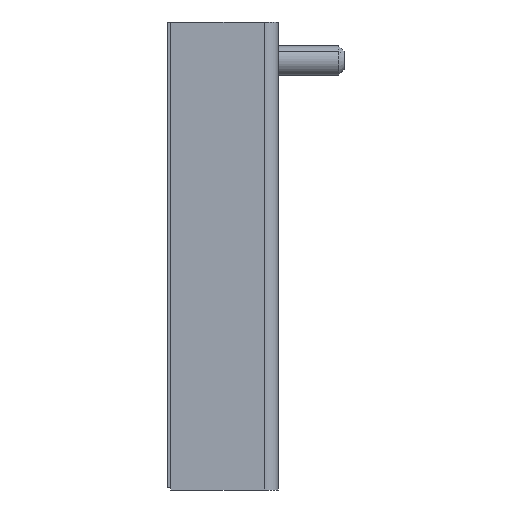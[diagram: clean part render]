
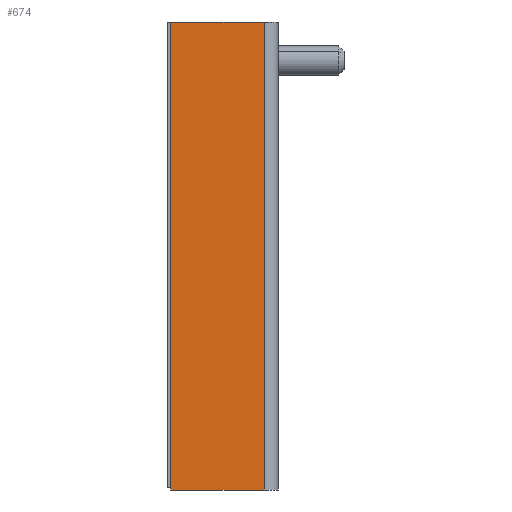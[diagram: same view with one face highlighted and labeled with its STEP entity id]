
A CAD part, left-side view. The second image highlights one B-rep face of the part: STEP entity #674.
In plain terms, the highlighted planar face has unit normal (-1, 0, 0).
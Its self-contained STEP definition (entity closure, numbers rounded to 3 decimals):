
#470 = EDGE_CURVE ( 'NONE', #677, #663, #1276, .T. ) ;
#473 = EDGE_CURVE ( 'NONE', #668, #677, #1245, .T. ) ;
#643 = ORIENTED_EDGE ( 'NONE', *, *, #684, .T. ) ;
#650 = EDGE_CURVE ( 'NONE', #655, #668, #1483, .T. ) ;
#655 = VERTEX_POINT ( 'NONE', #1487 ) ;
#663 = VERTEX_POINT ( 'NONE', #1585 ) ;
#668 = VERTEX_POINT ( 'NONE', #1592 ) ;
#674 = ADVANCED_FACE ( 'NONE', ( #1576 ), #1587, .T. ) ;
#675 = ORIENTED_EDGE ( 'NONE', *, *, #473, .T. ) ;
#677 = VERTEX_POINT ( 'NONE', #1565 ) ;
#679 = ORIENTED_EDGE ( 'NONE', *, *, #650, .T. ) ;
#682 = ORIENTED_EDGE ( 'NONE', *, *, #470, .T. ) ;
#684 = EDGE_CURVE ( 'NONE', #663, #655, #1579, .T. ) ;
#687 = EDGE_LOOP ( 'NONE', ( #643, #679, #675, #682 ) ) ;
#1242 = DIRECTION ( 'NONE',  ( 0., -1., 0. ) ) ;
#1243 = VECTOR ( 'NONE', #1242, 1000. ) ;
#1244 = CARTESIAN_POINT ( 'NONE',  ( -2., 0., 0. ) ) ;
#1245 = LINE ( 'NONE', #1244, #1243 ) ;
#1273 = DIRECTION ( 'NONE',  ( 0., 0., 1. ) ) ;
#1274 = VECTOR ( 'NONE', #1273, 1000. ) ;
#1275 = CARTESIAN_POINT ( 'NONE',  ( -2., 0.5, 85. ) ) ;
#1276 = LINE ( 'NONE', #1275, #1274 ) ;
#1483 = LINE ( 'NONE', #1486, #1589 ) ;
#1485 = DIRECTION ( 'NONE',  ( 0., 0., -1. ) ) ;
#1486 = CARTESIAN_POINT ( 'NONE',  ( -2., 17.5, 85. ) ) ;
#1487 = CARTESIAN_POINT ( 'NONE',  ( -2., 17.5, 85. ) ) ;
#1565 = CARTESIAN_POINT ( 'NONE',  ( -2., 0.5, 0. ) ) ;
#1569 = DIRECTION ( 'NONE',  ( 0., 1., 0. ) ) ;
#1570 = DIRECTION ( 'NONE',  ( 0., 0., 1. ) ) ;
#1571 = DIRECTION ( 'NONE',  ( -1., 0., 0. ) ) ;
#1573 = CARTESIAN_POINT ( 'NONE',  ( -2., 0., 85. ) ) ;
#1576 = FACE_OUTER_BOUND ( 'NONE', #687, .T. ) ;
#1579 = LINE ( 'NONE', #1619, #1616 ) ;
#1580 = AXIS2_PLACEMENT_3D ( 'NONE', #1573, #1571, #1570 ) ;
#1585 = CARTESIAN_POINT ( 'NONE',  ( -2., 0.5, 85. ) ) ;
#1587 = PLANE ( 'NONE',  #1580 ) ;
#1589 = VECTOR ( 'NONE', #1485, 1000. ) ;
#1592 = CARTESIAN_POINT ( 'NONE',  ( -2., 17.5, 0. ) ) ;
#1616 = VECTOR ( 'NONE', #1569, 1000. ) ;
#1619 = CARTESIAN_POINT ( 'NONE',  ( -2., 0., 85. ) ) ;
